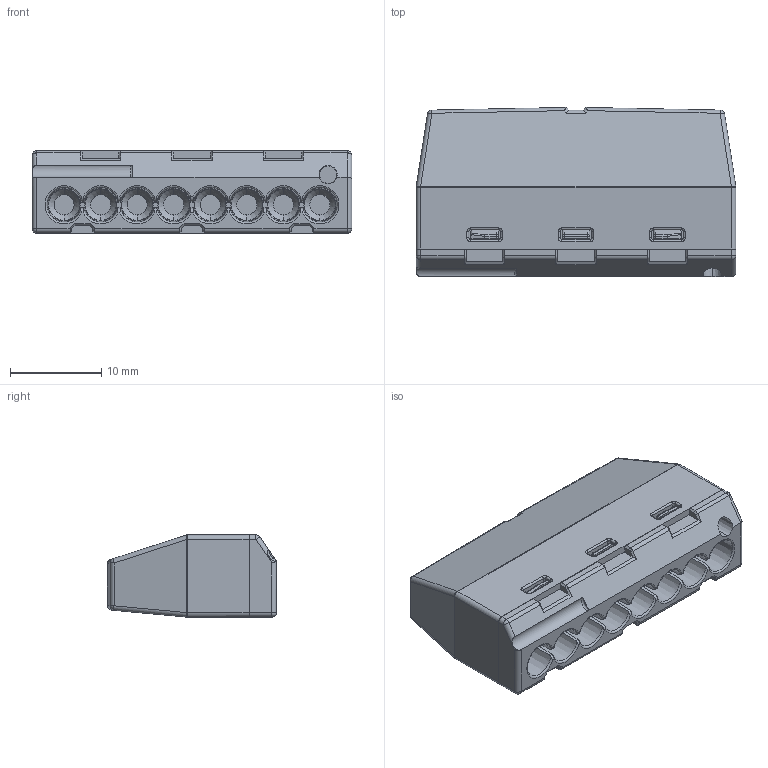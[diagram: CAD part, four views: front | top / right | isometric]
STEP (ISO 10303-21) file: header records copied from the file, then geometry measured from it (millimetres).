
FILE_DESCRIPTION(('Creo Elements/Direct Modeling STEP Export'),'2;1');
FILE_NAME('OK-8.stp','2014-09-02T11:05:56',(''),(''),'Creo Elements/Direct Modeling STEP processor for AP214 (Solid Model)','Creo Elements/Direct Modeling 18.1B 29-Sep-2012 (C) Parametric Technology GmbH','');
FILE_SCHEMA(('AUTOMOTIVE_DESIGN { 1 0 10303 214 1 1 1 1 }'));
Length unit declared in the file: millimetre
Products named in the file (2): OK-8; H01-0016-CE901_OK-8
Assembly tree (1 placements, depth 2):
  H01-0016-CE901_OK-8
    OK-8
Bounding box: 35 x 18.5 x 9 mm (x, y, z)
Volume: 4288.4 mm3; surface area: 3639 mm2
Topology: 1 solids, 1 shells, 473 faces, 1239 edges, 762 vertices
Faces by surface type: plane 189, cylinder 165, cone 44, torus 43, sphere 16, bspline 16
Entity records: 17265 total; most frequent: CARTESIAN_POINT 5109, ORIENTED_EDGE 2446, DIRECTION 2077, EDGE_CURVE 1223, VERTEX_POINT 762, AXIS2_PLACEMENT_3D 727, VECTOR 623, LINE 623
